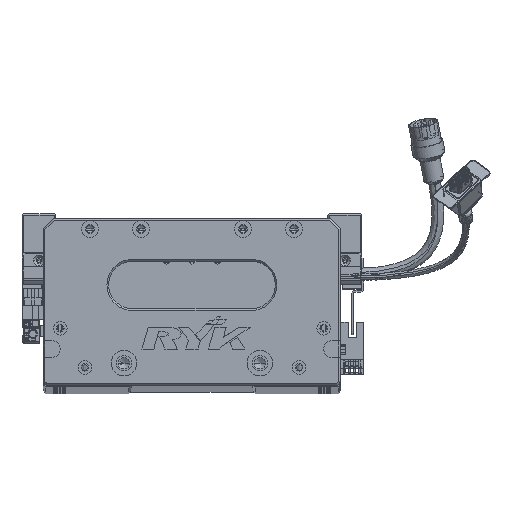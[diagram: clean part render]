
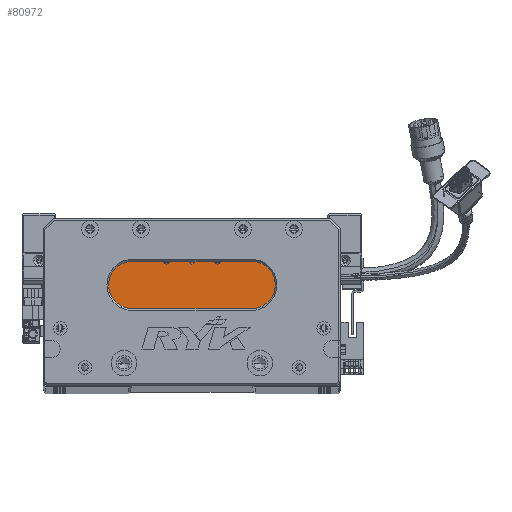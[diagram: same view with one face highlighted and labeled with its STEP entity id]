
A CAD part, top view. The second image highlights one B-rep face of the part: STEP entity #80972.
In plain terms, the highlighted planar face has unit normal (0, 0, 1) as drawn and (0, 0, -1) by its records, which use the part's own axes.
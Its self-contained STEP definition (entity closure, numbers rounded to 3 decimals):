
#2621 = CARTESIAN_POINT ( 'NONE',  ( 122.5, 73., 18. ) ) ;
#3673 = DIRECTION ( 'NONE',  ( 0., 0., -1. ) ) ;
#12690 = VECTOR ( 'NONE', #40627, 1000. ) ;
#17286 = CARTESIAN_POINT ( 'NONE',  ( 122.5, 73., 18. ) ) ;
#23879 = AXIS2_PLACEMENT_3D ( 'NONE', #100699, #52520, #61869 ) ;
#34251 = CARTESIAN_POINT ( 'NONE',  ( 52.5, 59., 18. ) ) ;
#39371 = CARTESIAN_POINT ( 'NONE',  ( 38.5, 59., 18. ) ) ;
#39528 = CARTESIAN_POINT ( 'NONE',  ( 52.5, 45., 18. ) ) ;
#39563 = PLANE ( 'NONE',  #86644 ) ;
#40627 = DIRECTION ( 'NONE',  ( 1., 0., 0. ) ) ;
#43668 = CARTESIAN_POINT ( 'NONE',  ( 122.5, 45., 18. ) ) ;
#46316 = ORIENTED_EDGE ( 'NONE', *, *, #57742, .T. ) ;
#47758 = CARTESIAN_POINT ( 'NONE',  ( 122.5, 59., 18. ) ) ;
#52520 = DIRECTION ( 'NONE',  ( 0., 0., -1. ) ) ;
#53219 = EDGE_CURVE ( 'NONE', #92350, #71280, #57820, .T. ) ;
#57742 = EDGE_CURVE ( 'NONE', #81879, #76590, #96350, .T. ) ;
#57820 = CIRCLE ( 'NONE', #113516, 14. ) ;
#58904 = CARTESIAN_POINT ( 'NONE',  ( 52.5, 73., 18. ) ) ;
#61166 = ORIENTED_EDGE ( 'NONE', *, *, #106357, .T. ) ;
#61869 = DIRECTION ( 'NONE',  ( -1., 0., 0. ) ) ;
#71280 = VERTEX_POINT ( 'NONE', #39371 ) ;
#72603 = DIRECTION ( 'NONE',  ( 0., 0., -1. ) ) ;
#76590 = VERTEX_POINT ( 'NONE', #81542 ) ;
#79231 = DIRECTION ( 'NONE',  ( -1., 0., 0. ) ) ;
#80972 = ADVANCED_FACE ( 'NONE', ( #89531 ), #39563, .T. ) ;
#81542 = CARTESIAN_POINT ( 'NONE',  ( 122.5, 45., 18. ) ) ;
#81879 = VERTEX_POINT ( 'NONE', #17286 ) ;
#82210 = LINE ( 'NONE', #43668, #114434 ) ;
#86644 = AXIS2_PLACEMENT_3D ( 'NONE', #47758, #104182, #104591 ) ;
#87518 = AXIS2_PLACEMENT_3D ( 'NONE', #34251, #72603, #90642 ) ;
#87598 = EDGE_CURVE ( 'NONE', #76590, #92350, #82210, .T. ) ;
#89531 = FACE_OUTER_BOUND ( 'NONE', #108527, .T. ) ;
#90619 = ORIENTED_EDGE ( 'NONE', *, *, #101524, .T. ) ;
#90642 = DIRECTION ( 'NONE',  ( -1., 0., 0. ) ) ;
#92350 = VERTEX_POINT ( 'NONE', #39528 ) ;
#96350 = CIRCLE ( 'NONE', #23879, 14. ) ;
#100699 = CARTESIAN_POINT ( 'NONE',  ( 122.5, 59., 18. ) ) ;
#100933 = VERTEX_POINT ( 'NONE', #58904 ) ;
#101524 = EDGE_CURVE ( 'NONE', #100933, #81879, #104862, .T. ) ;
#104182 = DIRECTION ( 'NONE',  ( 0., 0., -1. ) ) ;
#104591 = DIRECTION ( 'NONE',  ( -1., 0., 0. ) ) ;
#104862 = LINE ( 'NONE', #2621, #12690 ) ;
#106357 = EDGE_CURVE ( 'NONE', #71280, #100933, #112789, .T. ) ;
#106540 = ORIENTED_EDGE ( 'NONE', *, *, #53219, .T. ) ;
#108527 = EDGE_LOOP ( 'NONE', ( #46316, #117108, #106540, #61166, #90619 ) ) ;
#112789 = CIRCLE ( 'NONE', #87518, 14. ) ;
#113516 = AXIS2_PLACEMENT_3D ( 'NONE', #115712, #3673, #79231 ) ;
#114434 = VECTOR ( 'NONE', #116904, 1000. ) ;
#115712 = CARTESIAN_POINT ( 'NONE',  ( 52.5, 59., 18. ) ) ;
#116904 = DIRECTION ( 'NONE',  ( -1., 0., 0. ) ) ;
#117108 = ORIENTED_EDGE ( 'NONE', *, *, #87598, .T. ) ;
